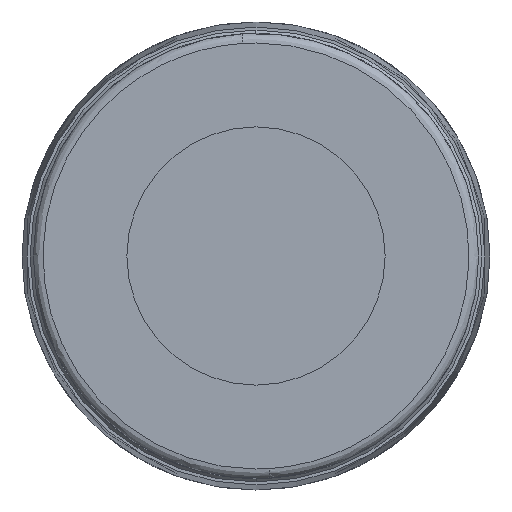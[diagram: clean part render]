
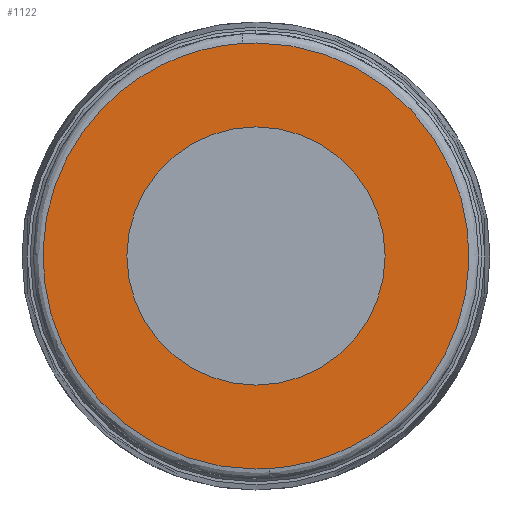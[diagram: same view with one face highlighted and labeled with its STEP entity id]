
A CAD part, left-side view. The second image highlights one B-rep face of the part: STEP entity #1122.
In plain terms, the highlighted planar face has unit normal (-1, 0, 0).
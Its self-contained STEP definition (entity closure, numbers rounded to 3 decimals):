
#23 = VERTEX_POINT ( 'NONE', #1133 ) ;
#99 = CARTESIAN_POINT ( 'NONE',  ( -18.9, -7.1, -7.1 ) ) ;
#106 = DIRECTION ( 'NONE',  ( -1., 0., 0. ) ) ;
#190 = CARTESIAN_POINT ( 'NONE',  ( -18.9, 0.272, 6.596 ) ) ;
#255 =( BOUNDED_CURVE ( )  B_SPLINE_CURVE ( 3, ( #1166, #1189, #1085, #1073 ),
 .UNSPECIFIED., .F., .F. ) 
 B_SPLINE_CURVE_WITH_KNOTS ( ( 4, 4 ),
 ( 0., 0.98 ),
 .UNSPECIFIED. ) 
 CURVE ( )  GEOMETRIC_REPRESENTATION_ITEM ( )  RATIONAL_B_SPLINE_CURVE ( ( 1., 0.354, 0.354, 1. ) ) 
 REPRESENTATION_ITEM ( '' )  );
#311 = ORIENTED_EDGE ( 'NONE', *, *, #1982, .F. ) ;
#313 = EDGE_CURVE ( 'NONE', #877, #2015, #594, .T. ) ;
#328 = DIRECTION ( 'NONE',  ( 0., 0., -1. ) ) ;
#428 = CARTESIAN_POINT ( 'NONE',  ( -18.9, 0.136, 6.6 ) ) ;
#429 = ORIENTED_EDGE ( 'NONE', *, *, #506, .T. ) ;
#474 = CARTESIAN_POINT ( 'NONE',  ( -18.9, 0., 0. ) ) ;
#477 = CARTESIAN_POINT ( 'NONE',  ( -18.9, -12.81, -5.82 ) ) ;
#506 = EDGE_CURVE ( 'NONE', #23, #1556, #1864, .T. ) ;
#517 = VERTEX_POINT ( 'NONE', #1095 ) ;
#525 = ORIENTED_EDGE ( 'NONE', *, *, #2139, .F. ) ;
#543 = DIRECTION ( 'NONE',  ( 0., 0., -1. ) ) ;
#594 =( BOUNDED_CURVE ( )  B_SPLINE_CURVE ( 3, ( #942, #190, #428, #958 ),
 .UNSPECIFIED., .F., .T. ) 
 B_SPLINE_CURVE_WITH_KNOTS ( ( 4, 4 ),
 ( 0.98, 1. ),
 .UNSPECIFIED. ) 
 CURVE ( )  GEOMETRIC_REPRESENTATION_ITEM ( )  RATIONAL_B_SPLINE_CURVE ( ( 1., 1., 1., 1. ) ) 
 REPRESENTATION_ITEM ( '' )  );
#608 = CARTESIAN_POINT ( 'NONE',  ( -18.9, 0., 6.6 ) ) ;
#650 = CIRCLE ( 'NONE', #872, 4. ) ;
#730 = CARTESIAN_POINT ( 'NONE',  ( -18.9, 0.408, 6.587 ) ) ;
#738 = DIRECTION ( 'NONE',  ( 1., 0., 0. ) ) ;
#762 = VERTEX_POINT ( 'NONE', #1993 ) ;
#872 = AXIS2_PLACEMENT_3D ( 'NONE', #474, #738, #543 ) ;
#877 = VERTEX_POINT ( 'NONE', #730 ) ;
#942 = CARTESIAN_POINT ( 'NONE',  ( -18.9, 0.408, 6.587 ) ) ;
#951 =( BOUNDED_CURVE ( )  B_SPLINE_CURVE ( 3, ( #1104, #1093, #1047, #1042 ),
 .UNSPECIFIED., .F., .T. ) 
 B_SPLINE_CURVE_WITH_KNOTS ( ( 4, 4 ),
 ( 0.98, 1. ),
 .UNSPECIFIED. ) 
 CURVE ( )  GEOMETRIC_REPRESENTATION_ITEM ( )  RATIONAL_B_SPLINE_CURVE ( ( 1., 1., 1., 1. ) ) 
 REPRESENTATION_ITEM ( '' )  );
#958 = CARTESIAN_POINT ( 'NONE',  ( -18.9, 0., 6.6 ) ) ;
#1024 = EDGE_LOOP ( 'NONE', ( #429, #1301 ) ) ;
#1038 = EDGE_CURVE ( 'NONE', #1556, #23, #650, .T. ) ;
#1042 = CARTESIAN_POINT ( 'NONE',  ( -18.9, 0., -6.6 ) ) ;
#1047 = CARTESIAN_POINT ( 'NONE',  ( -18.9, -0.136, -6.6 ) ) ;
#1073 = CARTESIAN_POINT ( 'NONE',  ( -18.9, 0.408, 6.587 ) ) ;
#1085 = CARTESIAN_POINT ( 'NONE',  ( -18.9, 12.81, 5.82 ) ) ;
#1086 = ORIENTED_EDGE ( 'NONE', *, *, #313, .F. ) ;
#1093 = CARTESIAN_POINT ( 'NONE',  ( -18.9, -0.272, -6.596 ) ) ;
#1095 = CARTESIAN_POINT ( 'NONE',  ( -18.9, -0.408, -6.587 ) ) ;
#1104 = CARTESIAN_POINT ( 'NONE',  ( -18.9, -0.408, -6.587 ) ) ;
#1115 =( BOUNDED_CURVE ( )  B_SPLINE_CURVE ( 3, ( #608, #1973, #477, #1325 ),
 .UNSPECIFIED., .F., .T. ) 
 B_SPLINE_CURVE_WITH_KNOTS ( ( 4, 4 ),
 ( 0., 0.98 ),
 .UNSPECIFIED. ) 
 CURVE ( )  GEOMETRIC_REPRESENTATION_ITEM ( )  RATIONAL_B_SPLINE_CURVE ( ( 1., 0.354, 0.354, 1. ) ) 
 REPRESENTATION_ITEM ( '' )  );
#1122 = ADVANCED_FACE ( '18', ( #1477, #1491 ), #1613, .T. ) ;
#1133 = CARTESIAN_POINT ( 'NONE',  ( -18.9, 0., -4. ) ) ;
#1166 = CARTESIAN_POINT ( 'NONE',  ( -18.9, 0., -6.6 ) ) ;
#1167 = CARTESIAN_POINT ( 'NONE',  ( -18.9, 0., 4. ) ) ;
#1189 = CARTESIAN_POINT ( 'NONE',  ( -18.9, 12.425, -6.6 ) ) ;
#1301 = ORIENTED_EDGE ( 'NONE', *, *, #1038, .T. ) ;
#1325 = CARTESIAN_POINT ( 'NONE',  ( -18.9, -0.408, -6.587 ) ) ;
#1477 = FACE_BOUND ( 'NONE', #1024, .T. ) ;
#1491 = FACE_OUTER_BOUND ( 'NONE', #2383, .T. ) ;
#1556 = VERTEX_POINT ( 'NONE', #1167 ) ;
#1613 = PLANE ( 'NONE',  #1737 ) ;
#1626 = DIRECTION ( 'NONE',  ( 0., 0., 1. ) ) ;
#1705 = AXIS2_PLACEMENT_3D ( 'NONE', #2369, #2333, #328 ) ;
#1737 = AXIS2_PLACEMENT_3D ( 'NONE', #99, #106, #1626 ) ;
#1864 = CIRCLE ( 'NONE', #1705, 4. ) ;
#1973 = CARTESIAN_POINT ( 'NONE',  ( -18.9, -12.425, 6.6 ) ) ;
#1982 = EDGE_CURVE ( 'NONE', #2015, #517, #1115, .T. ) ;
#1993 = CARTESIAN_POINT ( 'NONE',  ( -18.9, 0., -6.6 ) ) ;
#2015 = VERTEX_POINT ( 'NONE', #2402 ) ;
#2023 = ORIENTED_EDGE ( 'NONE', *, *, #2126, .F. ) ;
#2126 = EDGE_CURVE ( 'NONE', #762, #877, #255, .T. ) ;
#2139 = EDGE_CURVE ( 'NONE', #517, #762, #951, .T. ) ;
#2333 = DIRECTION ( 'NONE',  ( 1., 0., 0. ) ) ;
#2369 = CARTESIAN_POINT ( 'NONE',  ( -18.9, 0., 0. ) ) ;
#2383 = EDGE_LOOP ( 'NONE', ( #311, #1086, #2023, #525 ) ) ;
#2402 = CARTESIAN_POINT ( 'NONE',  ( -18.9, 0., 6.6 ) ) ;
